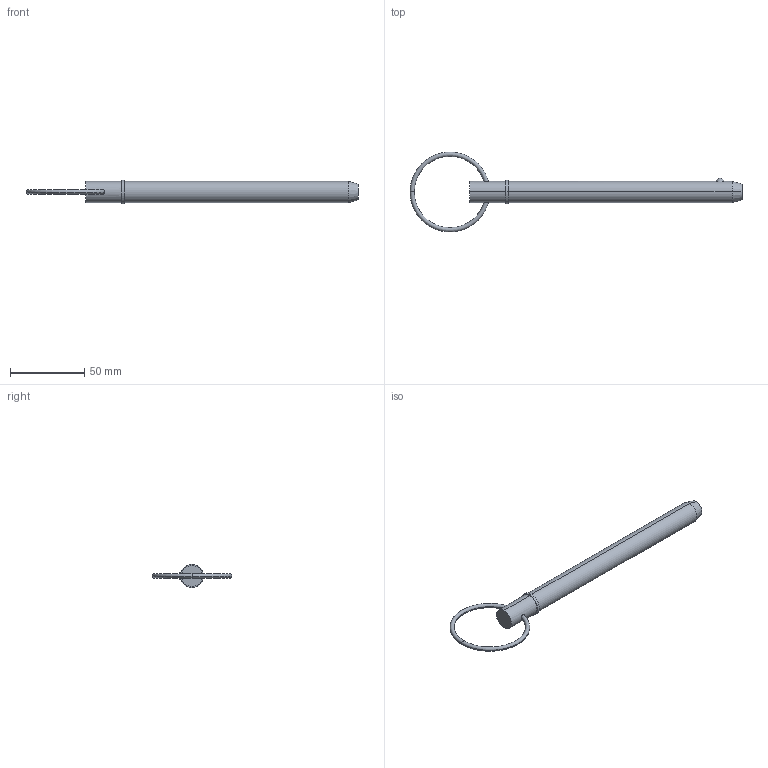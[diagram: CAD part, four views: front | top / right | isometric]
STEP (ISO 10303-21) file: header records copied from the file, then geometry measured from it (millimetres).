
FILE_DESCRIPTION (( 'STEP AP203' ), '1' );
FILE_NAME ('33016.W5655.step', '2024-11-07T11:11:44', ( '' ), ( '' ), 'SwSTEP 2.0', 'SolidWorks 2019', '' );
FILE_SCHEMA (( 'CONFIG_CONTROL_DESIGN' ));
Length unit declared in the file: millimetre
Products named in the file (3): 33016.W5655; Part2_33016.W5655; Part1_33016.W5655
Assembly tree (2 placements, depth 2):
  33016.W5655
    Part1_33016.W5655
    Part2_33016.W5655
Bounding box: 223.06 x 53.66 x 15.72 mm (x, y, z)
Volume: 30038 mm3; surface area: 10092.9 mm2
Topology: 2 solids, 2 shells, 22 faces, 43 edges, 26 vertices
Faces by surface type: torus 8, cylinder 6, plane 4, sphere 2, cone 2
Entity records: 1039 total; most frequent: CARTESIAN_POINT 262, DIRECTION 120, ORIENTED_EDGE 86, AXIS2_PLACEMENT_3D 56, EDGE_CURVE 43, CIRCLE 29, EDGE_LOOP 27, PERSON_AND_ORGANIZATION 26
